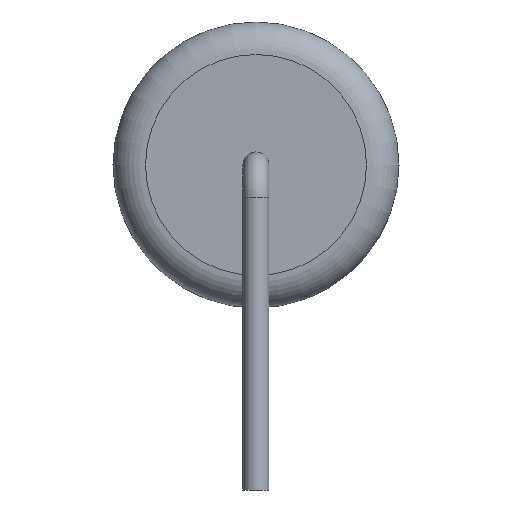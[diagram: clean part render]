
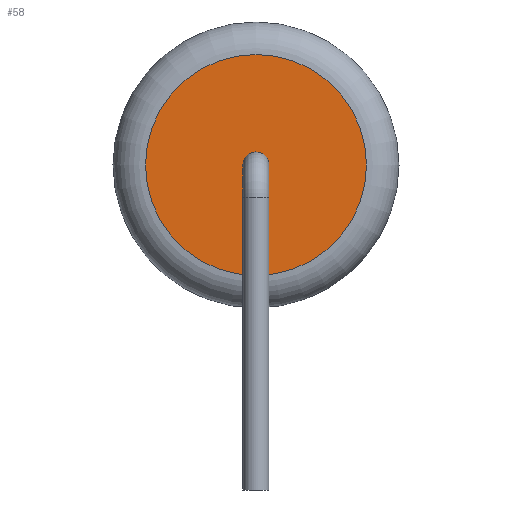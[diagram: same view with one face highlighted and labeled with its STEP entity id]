
A CAD part, left-side view. The second image highlights one B-rep face of the part: STEP entity #58.
In plain terms, the highlighted planar face has unit normal (-1, 0, 0).
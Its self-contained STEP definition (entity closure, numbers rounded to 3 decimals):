
#58=ADVANCED_FACE('',(#229,#231),#233,.T.);
#229=FACE_BOUND('',#230,.T.);
#230=EDGE_LOOP('',(#396));
#231=FACE_BOUND('',#232,.T.);
#232=EDGE_LOOP('',(#397));
#233=PLANE('',#234);
#234=AXIS2_PLACEMENT_3D('',#235,#236,#237);
#235=CARTESIAN_POINT('',(-9.25,0.,0.));
#236=DIRECTION('',(-1.,0.,0.));
#237=DIRECTION('',(0.,0.,1.));
#396=ORIENTED_EDGE('',*,*,#432,.T.);
#397=ORIENTED_EDGE('',*,*,#433,.F.);
#432=EDGE_CURVE('',#450,#450,#451,.T.);
#433=EDGE_CURVE('',#452,#452,#453,.F.);
#450=VERTEX_POINT('',#486);
#451=CIRCLE('',#487,3.4);
#452=VERTEX_POINT('',#491);
#453=CIRCLE('',#492,0.4);
#486=CARTESIAN_POINT('',(-9.25,0.,3.4));
#487=AXIS2_PLACEMENT_3D('',#488,#489,#490);
#488=CARTESIAN_POINT('',(-9.25,0.,0.));
#489=DIRECTION('',(-1.,0.,0.));
#490=DIRECTION('',(0.,0.,1.));
#491=CARTESIAN_POINT('',(-9.25,-0.4,0.));
#492=AXIS2_PLACEMENT_3D('',#493,#494,#495);
#493=CARTESIAN_POINT('',(-9.25,0.,0.));
#494=DIRECTION('',(1.,0.,0.));
#495=DIRECTION('',(0.,-1.,0.));
